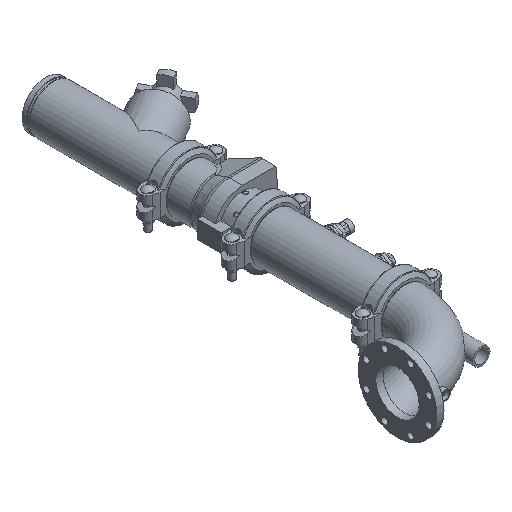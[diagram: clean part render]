
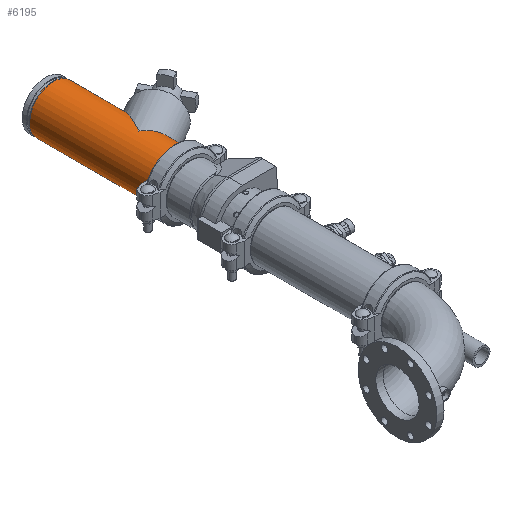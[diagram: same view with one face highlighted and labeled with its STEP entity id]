
A CAD part, isometric view. The second image highlights one B-rep face of the part: STEP entity #6195.
In plain terms, the highlighted cylindrical face has radius 84.138 mm (diameter 168.275 mm), a full revolution.
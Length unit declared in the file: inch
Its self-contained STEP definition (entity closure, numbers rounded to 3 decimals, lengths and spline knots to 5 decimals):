
#120=ELLIPSE('',#6761,6.625,3.3125);
#121=ELLIPSE('',#6762,3.82495,3.3125);
#122=ELLIPSE('',#6765,3.82495,3.3125);
#123=ELLIPSE('',#6766,6.625,3.3125);
#211=LINE('',#9543,#661);
#212=LINE('',#9549,#662);
#661=VECTOR('',#7629,3.3125);
#662=VECTOR('',#7634,3.3125);
#1082=CYLINDRICAL_SURFACE('',#6758,3.3125);
#1300=FACE_OUTER_BOUND('',#1648,.T.);
#1648=EDGE_LOOP('',(#4013,#4014,#4015,#4016,#4017,#4018,#4019,#4020,#4021,
#4022,#4023,#4024));
#2077=CIRCLE('',#6759,3.3125);
#2078=CIRCLE('',#6760,3.3125);
#2079=CIRCLE('',#6763,3.3125);
#2080=CIRCLE('',#6764,3.3125);
#2450=VERTEX_POINT('',#9538);
#2451=VERTEX_POINT('',#9539);
#2452=VERTEX_POINT('',#9542);
#2453=VERTEX_POINT('',#9544);
#2454=VERTEX_POINT('',#9546);
#2455=VERTEX_POINT('',#9548);
#2456=VERTEX_POINT('',#9550);
#2457=VERTEX_POINT('',#9553);
#3069=EDGE_CURVE('',#2450,#2451,#2077,.T.);
#3070=EDGE_CURVE('',#2451,#2450,#2078,.T.);
#3071=EDGE_CURVE('',#2451,#2452,#211,.T.);
#3072=EDGE_CURVE('',#2452,#2453,#120,.T.);
#3073=EDGE_CURVE('',#2453,#2454,#121,.T.);
#3074=EDGE_CURVE('',#2454,#2455,#212,.T.);
#3075=EDGE_CURVE('',#2455,#2456,#2079,.T.);
#3076=EDGE_CURVE('',#2456,#2455,#2080,.T.);
#3077=EDGE_CURVE('',#2454,#2457,#122,.T.);
#3078=EDGE_CURVE('',#2457,#2452,#123,.T.);
#4013=ORIENTED_EDGE('',*,*,#3069,.F.);
#4014=ORIENTED_EDGE('',*,*,#3070,.F.);
#4015=ORIENTED_EDGE('',*,*,#3071,.T.);
#4016=ORIENTED_EDGE('',*,*,#3072,.T.);
#4017=ORIENTED_EDGE('',*,*,#3073,.T.);
#4018=ORIENTED_EDGE('',*,*,#3074,.T.);
#4019=ORIENTED_EDGE('',*,*,#3075,.T.);
#4020=ORIENTED_EDGE('',*,*,#3076,.T.);
#4021=ORIENTED_EDGE('',*,*,#3074,.F.);
#4022=ORIENTED_EDGE('',*,*,#3077,.T.);
#4023=ORIENTED_EDGE('',*,*,#3078,.T.);
#4024=ORIENTED_EDGE('',*,*,#3071,.F.);
#6195=ADVANCED_FACE('',(#1300),#1082,.T.);
#6758=AXIS2_PLACEMENT_3D('',#9537,#7623,#7624);
#6759=AXIS2_PLACEMENT_3D('',#9540,#7625,#7626);
#6760=AXIS2_PLACEMENT_3D('',#9541,#7627,#7628);
#6761=AXIS2_PLACEMENT_3D('',#9545,#7630,#7631);
#6762=AXIS2_PLACEMENT_3D('',#9547,#7632,#7633);
#6763=AXIS2_PLACEMENT_3D('',#9551,#7635,#7636);
#6764=AXIS2_PLACEMENT_3D('',#9552,#7637,#7638);
#6765=AXIS2_PLACEMENT_3D('',#9554,#7639,#7640);
#6766=AXIS2_PLACEMENT_3D('',#9555,#7641,#7642);
#7623=DIRECTION('center_axis',(1.,0.,0.));
#7624=DIRECTION('ref_axis',(0.,1.,0.));
#7625=DIRECTION('center_axis',(1.,0.,0.));
#7626=DIRECTION('ref_axis',(0.,0.,-1.));
#7627=DIRECTION('center_axis',(1.,0.,0.));
#7628=DIRECTION('ref_axis',(0.,0.,-1.));
#7629=DIRECTION('',(-1.,0.,0.));
#7630=DIRECTION('center_axis',(0.5,0.866,0.));
#7631=DIRECTION('ref_axis',(-0.866,0.5,0.));
#7632=DIRECTION('center_axis',(-0.866,0.5,0.));
#7633=DIRECTION('ref_axis',(-0.5,-0.866,0.));
#7634=DIRECTION('',(-1.,0.,0.));
#7635=DIRECTION('center_axis',(1.,0.,0.));
#7636=DIRECTION('ref_axis',(0.,0.,-1.));
#7637=DIRECTION('center_axis',(1.,0.,0.));
#7638=DIRECTION('ref_axis',(0.,0.,-1.));
#7639=DIRECTION('center_axis',(-0.866,0.5,0.));
#7640=DIRECTION('ref_axis',(-0.5,-0.866,0.));
#7641=DIRECTION('center_axis',(0.5,0.866,0.));
#7642=DIRECTION('ref_axis',(-0.866,0.5,0.));
#9537=CARTESIAN_POINT('Origin',(0.,0.,
0.));
#9538=CARTESIAN_POINT('',(8.44,3.3125,0.));
#9539=CARTESIAN_POINT('',(8.44,-3.3125,0.));
#9540=CARTESIAN_POINT('Origin',(8.44,0.,0.));
#9541=CARTESIAN_POINT('Origin',(8.44,0.,0.));
#9542=CARTESIAN_POINT('',(2.15155,-3.3125,0.));
#9543=CARTESIAN_POINT('',(0.,-3.3125,0.));
#9544=CARTESIAN_POINT('',(-3.58586,0.,-3.3125));
#9545=CARTESIAN_POINT('Origin',(-3.58586,0.,
0.));
#9546=CARTESIAN_POINT('',(-5.49834,-3.3125,0.));
#9547=CARTESIAN_POINT('Origin',(-3.58586,0.,
0.));
#9548=CARTESIAN_POINT('',(-8.44,-3.3125,0.));
#9549=CARTESIAN_POINT('',(0.,-3.3125,0.));
#9550=CARTESIAN_POINT('',(-8.44,3.3125,0.));
#9551=CARTESIAN_POINT('Origin',(-8.44,0.,0.));
#9552=CARTESIAN_POINT('Origin',(-8.44,0.,0.));
#9553=CARTESIAN_POINT('',(-3.58586,0.,3.3125));
#9554=CARTESIAN_POINT('Origin',(-3.58586,0.,
0.));
#9555=CARTESIAN_POINT('Origin',(-3.58586,0.,
0.));
